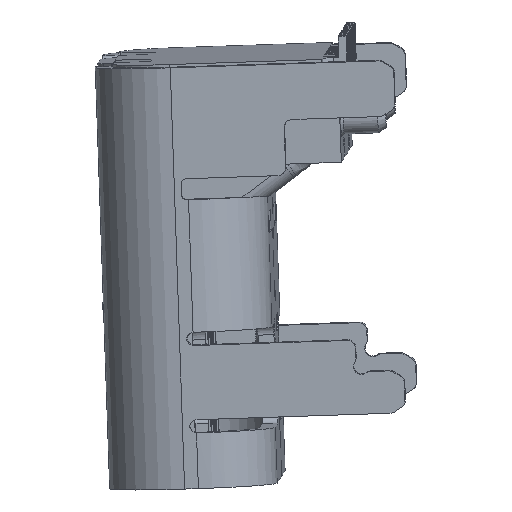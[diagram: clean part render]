
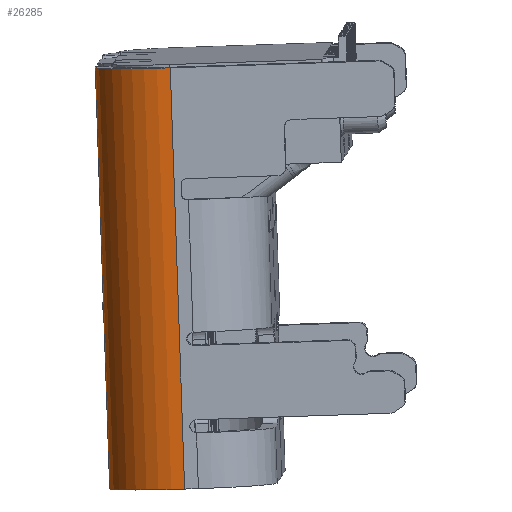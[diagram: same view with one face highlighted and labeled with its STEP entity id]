
A CAD part, left-side view. The second image highlights one B-rep face of the part: STEP entity #26285.
In plain terms, the highlighted cylindrical face has radius 1.45 mm (diameter 2.9 mm), a partial arc.
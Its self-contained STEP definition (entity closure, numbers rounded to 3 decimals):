
#7512=CARTESIAN_POINT('',(4.79,1.677,0.499));
#7513=DIRECTION('',(0.038,-0.034,-0.999));
#7514=DIRECTION('',(-0.999,0.025,-0.039));
#7515=AXIS2_PLACEMENT_3D('',#7512,#7513,#7514);
#9966=CARTESIAN_POINT('',(5.092,1.405,-7.441));
#9967=DIRECTION('',(0.038,-0.034,-0.999));
#9968=DIRECTION('',(-0.999,0.025,-0.039));
#9969=AXIS2_PLACEMENT_3D('',#9966,#9967,#9968);
#10590=DIRECTION('',(-0.038,0.034,0.999));
#10591=VECTOR('',#10590,7.95);
#10592=CARTESIAN_POINT('',(3.643,1.441,
-7.497));
#10593=LINE('',#10592,#10591);
#10594=DIRECTION('',(0.038,-0.034,-0.999));
#10595=VECTOR('',#10594,7.95);
#10596=CARTESIAN_POINT('',(4.828,3.126,
0.451));
#10597=LINE('',#10596,#10595);
#20066=CARTESIAN_POINT('',(4.828,3.126,
0.451));
#20067=VERTEX_POINT('',#20066);
#20068=CARTESIAN_POINT('',(3.342,1.713,
0.443));
#20069=VERTEX_POINT('',#20068);
#20228=CARTESIAN_POINT('',(5.129,2.854,
-7.489));
#20229=VERTEX_POINT('',#20228);
#20594=CARTESIAN_POINT('',(3.643,1.441,
-7.497));
#20595=VERTEX_POINT('',#20594);
#26273=CARTESIAN_POINT('',(4.79,1.677,
0.499));
#26274=DIRECTION('',(0.038,-0.034,-0.999));
#26275=DIRECTION('',(-0.999,0.025,-0.039));
#26276=AXIS2_PLACEMENT_3D('',#26273,#26274,#26275);
#26277=CYLINDRICAL_SURFACE('',#26276,1.45);
#26278=ORIENTED_EDGE('',*,*,#25120,.F.);
#26279=ORIENTED_EDGE('',*,*,#23995,.T.);
#26280=ORIENTED_EDGE('',*,*,#22304,.T.);
#26282=ORIENTED_EDGE('',*,*,#26281,.T.);
#26283=EDGE_LOOP('',(#26278,#26279,#26280,#26282));
#26284=FACE_OUTER_BOUND('',#26283,.F.);
#7516=CIRCLE('',#7515,1.45);
#9970=CIRCLE('',#9969,1.45);
#22304=EDGE_CURVE('',#20069,#20067,#7516,.T.);
#23995=EDGE_CURVE('',#20595,#20069,#10593,.T.);
#25120=EDGE_CURVE('',#20595,#20229,#9970,.T.);
#26281=EDGE_CURVE('',#20067,#20229,#10597,.T.);
#26285=ADVANCED_FACE('',(#26284),#26277,.F.);
